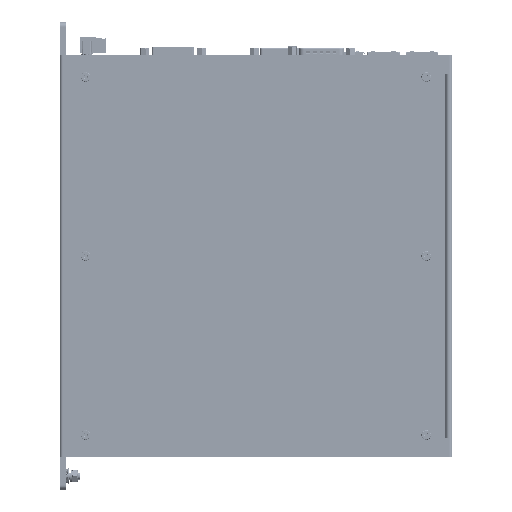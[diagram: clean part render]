
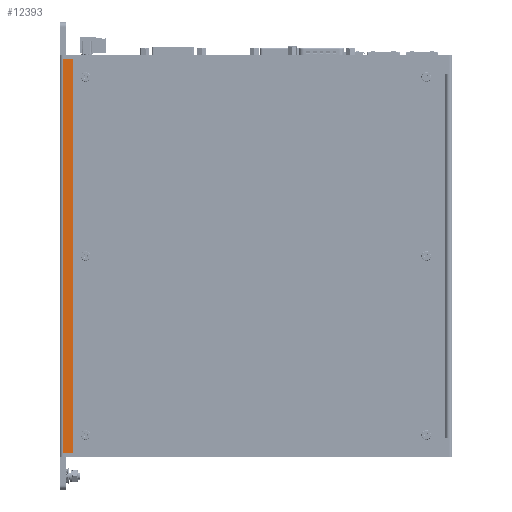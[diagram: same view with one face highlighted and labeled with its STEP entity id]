
A CAD part, front view. The second image highlights one B-rep face of the part: STEP entity #12393.
In plain terms, the highlighted planar face has unit normal (0, -1, 0) as drawn and (-1, 0, 0) by its records, which use the part's own axes.
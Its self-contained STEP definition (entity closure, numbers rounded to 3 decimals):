
#12393 = ADVANCED_FACE ( 'NONE', ( #99528 ), #287043, .T. ) ;
#12697 = EDGE_CURVE ( 'NONE', #595877, #372809, #642966, .T. ) ;
#55505 = VECTOR ( 'NONE', #392600, 1000. ) ;
#57890 = ORIENTED_EDGE ( 'NONE', *, *, #163049, .F. ) ;
#92077 = EDGE_LOOP ( 'NONE', ( #456878, #57890, #251087, #440159 ) ) ;
#99528 = FACE_OUTER_BOUND ( 'NONE', #92077, .T. ) ;
#111799 = CARTESIAN_POINT ( 'NONE',  ( -45., -113., -7.5 ) ) ;
#163049 = EDGE_CURVE ( 'NONE', #601935, #595877, #610154, .T. ) ;
#176756 = CARTESIAN_POINT ( 'NONE',  ( -45., -113., -2. ) ) ;
#251087 = ORIENTED_EDGE ( 'NONE', *, *, #549199, .T. ) ;
#256544 = DIRECTION ( 'NONE',  ( 0., 1., 0. ) ) ;
#287043 = PLANE ( 'NONE',  #541349 ) ;
#305415 = EDGE_CURVE ( 'NONE', #372809, #559373, #374806, .T. ) ;
#355382 = LINE ( 'NONE', #442253, #721890 ) ;
#364461 = CARTESIAN_POINT ( 'NONE',  ( -45., -113., -7.5 ) ) ;
#372809 = VERTEX_POINT ( 'NONE', #452803 ) ;
#374806 = LINE ( 'NONE', #756920, #55505 ) ;
#383943 = CARTESIAN_POINT ( 'NONE',  ( -45., 113., -7.5 ) ) ;
#392600 = DIRECTION ( 'NONE',  ( 0., -1., 0. ) ) ;
#440159 = ORIENTED_EDGE ( 'NONE', *, *, #305415, .F. ) ;
#442253 = CARTESIAN_POINT ( 'NONE',  ( -45., -113., -7.5 ) ) ;
#452803 = CARTESIAN_POINT ( 'NONE',  ( -45., 113., -2. ) ) ;
#456878 = ORIENTED_EDGE ( 'NONE', *, *, #12697, .F. ) ;
#470042 = DIRECTION ( 'NONE',  ( 0., 0., 1. ) ) ;
#515933 = VECTOR ( 'NONE', #256544, 1000. ) ;
#541349 = AXIS2_PLACEMENT_3D ( 'NONE', #591329, #654126, #712023 ) ;
#549199 = EDGE_CURVE ( 'NONE', #601935, #559373, #355382, .T. ) ;
#559373 = VERTEX_POINT ( 'NONE', #176756 ) ;
#577516 = VECTOR ( 'NONE', #470042, 1000. ) ;
#591329 = CARTESIAN_POINT ( 'NONE',  ( -45., -113., -19. ) ) ;
#595877 = VERTEX_POINT ( 'NONE', #383943 ) ;
#601935 = VERTEX_POINT ( 'NONE', #111799 ) ;
#610154 = LINE ( 'NONE', #364461, #515933 ) ;
#642966 = LINE ( 'NONE', #711435, #577516 ) ;
#654126 = DIRECTION ( 'NONE',  ( -1., 0., 0. ) ) ;
#698950 = DIRECTION ( 'NONE',  ( 0., 0., 1. ) ) ;
#711435 = CARTESIAN_POINT ( 'NONE',  ( -45., 113., -7.5 ) ) ;
#712023 = DIRECTION ( 'NONE',  ( 0., 0., 1. ) ) ;
#721890 = VECTOR ( 'NONE', #698950, 1000. ) ;
#756920 = CARTESIAN_POINT ( 'NONE',  ( -45., 113., -2. ) ) ;
